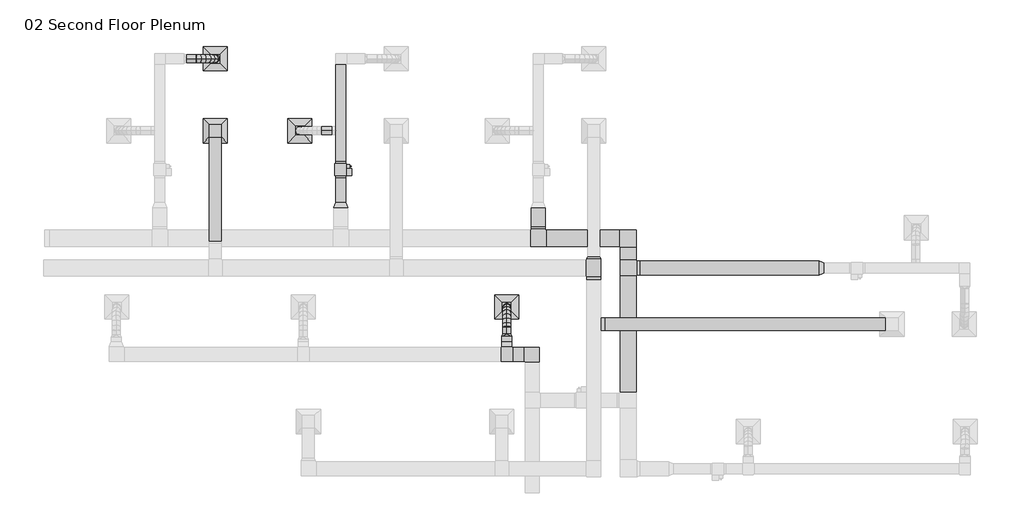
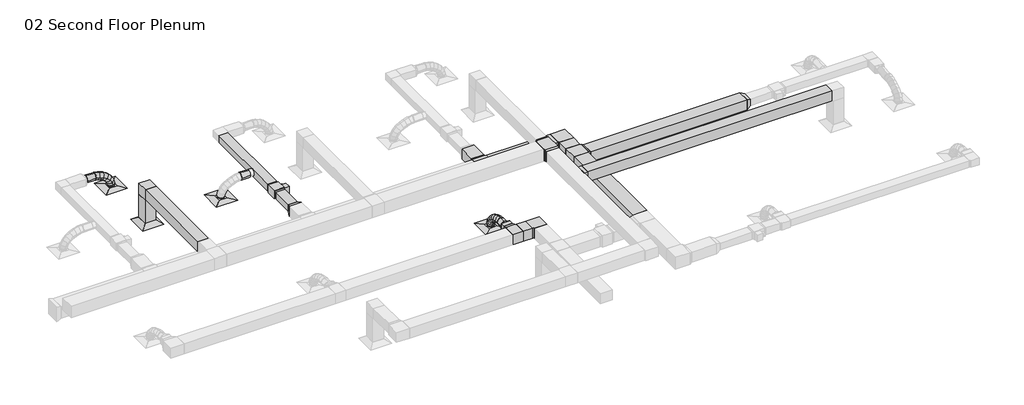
# One storey, part 9 of 12: 17 duct segments, 16 duct fittings, 4 air terminals, 1 proxy.
"""IFC4 building model written with IfcOpenShell, lengths in millimetres."""

from ifc_helpers import new_model, si_unit, point, frame, frame_2d, origin, place, context, project, spatial, polyline, circle_curve, ellipse_curve, trimmed, segment, composite_curve, outline, extrude, transform, mapped, element, save
from ifc_brep_helpers import plane_surface, cylinder_surface, advanced_brep
from components import return_diffuser_d30_returndiffuser_24x24_12x12_connection_ff543d60, supply_diffuser_rectangular_face_round_neck_d30_6390248a, bcn6785_vav_d30_vav1_8c327968, rectangular_elbow_mitered_standard_f5573d14, rectangular_elbow_mitered_standard_452c98c7, rectangular_elbow_mitered_standard_4ff1c4e8, rectangular_takeoff_standard_087f681d, rectangular_tee_standard_6c605370, rectangular_tee_standard_0ce2a782, rectangular_tee_standard_d2fbf457, rectangular_transition_angle_45_degree_183635ce, rectangular_transition_angle_45_degree_4f949d70, rectangular_transition_angle_45_degree_74625674, rectangular_transition_angle_45_degree_97535d2c, rectangular_transition_angle_45_degree_0def93a9, rectangular_transition_angle_45_degree_276d8c96, rectangular_to_round_transition_angle_45_degree_e9430680

model = new_model("IFC4")

# Units and contexts
model_context = context("Model", 3, world=origin())
ifc_project = project(units=[si_unit("LENGTHUNIT", "METRE", prefix="MILLI")], contexts=[model_context])

# Site, building, storey
site = spatial("IfcSite", under=ifc_project)
building = spatial("IfcBuilding", under=site)
storey = spatial("IfcBuildingStorey", under=building, Name="02 Second Floor Plenum", Elevation=3048.0)

# Air terminals
placement = place(None, origin())
return_diffuser_d30_returndiffuser_24x24_12x12_connection_shape = return_diffuser_d30_returndiffuser_24x24_12x12_connection_ff543d60(model_context)
element("IfcAirTerminal", 1, ObjectType="Return Diffuser : D30_ReturnDiffuser_24x24 12x12 Connection", at=placement, inside=storey, context=model_context, shape_type="MappedRepresentation", body=[
    mapped(return_diffuser_d30_returndiffuser_24x24_12x12_connection_shape, transform((681.2457383, 10036.7671675, 3048.0), x_axis=(1.0, 0.0, 0.0), y_axis=(0.0, 1.0, 0.0), z_axis=(0.0, 0.0, 1.0))),
])
supply_diffuser_rectangular_face_round_neck_d30_shape = supply_diffuser_rectangular_face_round_neck_d30_6390248a(model_context)
element("IfcAirTerminal", 2, ObjectType="Supply Diffuser - Rectangular Face Round Neck : D30_SupplyDiffuser_24x24 8 Neck", at=placement, inside=storey, context=model_context, shape_type="MappedRepresentation", body=[
    mapped(supply_diffuser_rectangular_face_round_neck_d30_shape, transform((681.2457383, 11865.5671675, 3048.0), x_axis=(1.0, 0.0, 0.0), y_axis=(0.0, 1.0, 0.0), z_axis=(0.0, 0.0, 1.0))),
])
element("IfcAirTerminal", 3, ObjectType="Supply Diffuser - Rectangular Face Round Neck : D30_SupplyDiffuser_24x24 8 Neck", at=placement, inside=storey, context=model_context, shape_type="MappedRepresentation", body=[
    mapped(supply_diffuser_rectangular_face_round_neck_d30_shape, transform((2814.8457383, 10036.7671675, 3048.0), x_axis=(1.0, 0.0, 0.0), y_axis=(0.0, 1.0, 0.0), z_axis=(0.0, 0.0, 1.0))),
])
element("IfcAirTerminal", 4, ObjectType="Supply Diffuser - Rectangular Face Round Neck : D30_SupplyDiffuser_24x24 8 Neck", at=placement, inside=storey, context=model_context, shape_type="MappedRepresentation", body=[
    mapped(supply_diffuser_rectangular_face_round_neck_d30_shape, transform((8055.87093, 5575.8921675, 3048.0), x_axis=(1.0, 0.0, 0.0), y_axis=(0.0, 1.0, 0.0), z_axis=(0.0, 0.0, 1.0))),
])

# Proxy
bcn6785_vav_d30_vav1_shape = bcn6785_vav_d30_vav1_8c327968(model_context)
element("IfcBuildingElementProxy", 5, Name="BCN6785_VAV : D30_VAV1", ObjectType="BCN6785_VAV : D30_VAV1", at=placement, inside=storey, context=model_context, shape_type="MappedRepresentation", body=[
    mapped(bcn6785_vav_d30_vav1_shape, transform((3851.251634, 8909.6421675, 3384.55), x_axis=(0.0, 1.0, 0.0), y_axis=(-1.0, 0.0, 0.0), z_axis=(0.0, 0.0, 1.0))),
])

# Duct fittings
rectangular_elbow_mitered_standard_shape = rectangular_elbow_mitered_standard_f5573d14(model_context)
element("IfcDuctFitting", 6, ObjectType="Rectangular Elbow - Mitered : Standard", at=placement, inside=storey, context=model_context, shape_type="MappedRepresentation", body=[
    mapped(rectangular_elbow_mitered_standard_shape, transform((11126.2817659, 7316.8809317, 3505.2), x_axis=(0.0, 1.0, 0.0), y_axis=(-1.0, 0.0, 0.0), z_axis=(0.0, 0.0, 1.0))),
])
rectangular_elbow_mitered_standard_2_shape = rectangular_elbow_mitered_standard_452c98c7(model_context)
element("IfcDuctFitting", 7, ObjectType="Rectangular Elbow - Mitered : Standard", at=placement, inside=storey, context=model_context, shape_type="MappedRepresentation", body=[
    mapped(rectangular_elbow_mitered_standard_2_shape, transform((8690.7455608, 4380.2636656, 3505.2), x_axis=(0.0, 1.0, 0.0), y_axis=(-1.0, 0.0, 0.0), z_axis=(0.0, 0.0, 1.0))),
])
rectangular_elbow_mitered_standard_3_shape = rectangular_elbow_mitered_standard_4ff1c4e8(model_context)
element("IfcDuctFitting", 8, ObjectType="Rectangular Elbow - Mitered : Standard", at=placement, inside=storey, context=model_context, shape_type="MappedRepresentation", body=[
    mapped(rectangular_elbow_mitered_standard_3_shape, transform((681.2457383, 10036.7671675, 4038.6), x_axis=(0.0, 0.0, 1.0), y_axis=(0.00026472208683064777, -0.9999999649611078, 0.0), z_axis=(0.9999999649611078, 0.00026472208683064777, 0.0))),
])
rectangular_takeoff_standard_shape = rectangular_takeoff_standard_087f681d(model_context)
element("IfcDuctFitting", 9, ObjectType="Rectangular Takeoff : Standard", at=placement, inside=storey, context=model_context, shape_type="MappedRepresentation", body=[
    mapped(rectangular_takeoff_standard_shape, transform((10430.0832383, 5144.0921675, 4038.6), x_axis=(1.0, 0.0, 0.0), y_axis=(0.0, -1.0, 0.0), z_axis=(0.0, 0.0, -1.0))),
])
rectangular_tee_standard_shape = rectangular_tee_standard_6c605370(model_context)
element("IfcDuctFitting", 10, ObjectType="Rectangular Tee : Standard", at=placement, inside=storey, context=model_context, shape_type="MappedRepresentation", body=[
    mapped(rectangular_tee_standard_shape, transform((8850.289134, 7316.8809317, 3505.2), x_axis=(-1.0, 0.0, 0.0), y_axis=(0.0, -1.0, 0.0), z_axis=(0.0, 0.0, 1.0))),
])
element("IfcDuctFitting", 11, ObjectType="Rectangular Tee : Standard", at=placement, inside=storey, context=model_context, shape_type="MappedRepresentation", body=[
    mapped(rectangular_tee_standard_shape, transform((11126.2817659, 6562.2580171, 3505.2), x_axis=(0.0, 1.0, 0.0), y_axis=(-1.0, 0.0, 0.0), z_axis=(0.0, 0.0, 1.0))),
])
rectangular_tee_standard_2_shape = rectangular_tee_standard_0ce2a782(model_context)
element("IfcDuctFitting", 12, ObjectType="Rectangular Tee : Standard", at=placement, inside=storey, context=model_context, shape_type="MappedRepresentation", body=[
    mapped(rectangular_tee_standard_2_shape, transform((8055.87093, 4380.2636656, 3505.2), x_axis=(-1.0, 0.0, 0.0), y_axis=(0.0, -1.0, 0.0), z_axis=(0.0, 0.0, 1.0))),
])
rectangular_tee_standard_3_shape = rectangular_tee_standard_d2fbf457(model_context)
element("IfcDuctFitting", 13, ObjectType="Rectangular Tee : Standard", at=placement, inside=storey, context=model_context, shape_type="MappedRepresentation", body=[
    mapped(rectangular_tee_standard_3_shape, transform((10252.2832383, 6562.5101985, 4038.6), x_axis=(0.0, -1.0, 0.0), y_axis=(1.0, 0.0, 0.0), z_axis=(0.0, 0.0, 1.0))),
])
rectangular_transition_angle_45_degree_shape = rectangular_transition_angle_45_degree_183635ce(model_context)
element("IfcDuctFitting", 14, ObjectType="Rectangular Transition - Angle : 45 Degree", at=placement, inside=storey, context=model_context, shape_type="MappedRepresentation", body=[
    mapped(rectangular_transition_angle_45_degree_shape, transform((15952.2817659, 6562.2580171, 3505.2), x_axis=(1.0, 0.0, 0.0), y_axis=(0.0, 1.0, 0.0), z_axis=(0.0, 0.0, 1.0))),
])
rectangular_transition_angle_45_degree_2_shape = rectangular_transition_angle_45_degree_4f949d70(model_context)
element("IfcDuctFitting", 15, ObjectType="Rectangular Transition - Angle : 45 Degree", at=placement, inside=storey, context=model_context, shape_type="MappedRepresentation", body=[
    mapped(rectangular_transition_angle_45_degree_2_shape, transform((11354.8817659, 6562.2580171, 3505.2), x_axis=(1.0, 0.0, 0.0), y_axis=(0.0, 1.0, 0.0), z_axis=(0.0, 0.0, 1.0))),
])
element("IfcDuctFitting", 16, ObjectType="Rectangular Transition - Angle : 45 Degree", at=placement, inside=storey, context=model_context, shape_type="MappedRepresentation", body=[
    mapped(rectangular_transition_angle_45_degree_2_shape, transform((10252.2832383, 6333.9101985, 4038.6), x_axis=(0.0, -1.0, 0.0), y_axis=(1.0, 0.0, 0.0), z_axis=(0.0, 0.0, 1.0))),
])
rectangular_transition_angle_45_degree_3_shape = rectangular_transition_angle_45_degree_74625674(model_context)
element("IfcDuctFitting", 17, ObjectType="Rectangular Transition - Angle : 45 Degree", at=placement, inside=storey, context=model_context, shape_type="MappedRepresentation", body=[
    mapped(rectangular_transition_angle_45_degree_3_shape, transform((3851.251634, 8223.8421675, 3505.2), x_axis=(0.0, -1.0, 0.0), y_axis=(1.0, 0.0, 0.0), z_axis=(0.0, 0.0, 1.0))),
])
rectangular_transition_angle_45_degree_4_shape = rectangular_transition_angle_45_degree_97535d2c(model_context)
element("IfcDuctFitting", 18, ObjectType="Rectangular Transition - Angle : 45 Degree", at=placement, inside=storey, context=model_context, shape_type="MappedRepresentation", body=[
    mapped(rectangular_transition_angle_45_degree_4_shape, transform((8850.289134, 7606.8019562, 3505.2), x_axis=(0.0, -1.0, 0.0), y_axis=(1.0, 0.0, 0.0), z_axis=(0.0, 0.0, 1.0))),
])
rectangular_transition_angle_45_degree_5_shape = rectangular_transition_angle_45_degree_0def93a9(model_context)
element("IfcDuctFitting", 19, ObjectType="Rectangular Transition - Angle : 45 Degree", at=placement, inside=storey, context=model_context, shape_type="MappedRepresentation", body=[
    mapped(rectangular_transition_angle_45_degree_5_shape, transform((8055.87093, 4583.4636656, 3505.2), x_axis=(0.0, 1.0, 0.0), y_axis=(-1.0, 0.0, 0.0), z_axis=(0.0, 0.0, 1.0))),
])
rectangular_transition_angle_45_degree_6_shape = rectangular_transition_angle_45_degree_276d8c96(model_context)
element("IfcDuctFitting", 20, ObjectType="Rectangular Transition - Angle : 45 Degree", at=placement, inside=storey, context=model_context, shape_type="MappedRepresentation", body=[
    mapped(rectangular_transition_angle_45_degree_6_shape, transform((10252.2832383, 6791.1101985, 4038.6), x_axis=(0.0, 1.0, 0.0), y_axis=(-1.0, 0.0, 0.0), z_axis=(0.0, 0.0, 1.0))),
])
rectangular_to_round_transition_angle_45_degree_shape = rectangular_to_round_transition_angle_45_degree_e9430680(model_context)
element("IfcDuctFitting", 21, ObjectType="Rectangular to Round Transition - Angle : 45 Degree", at=placement, inside=storey, context=model_context, shape_type="MappedRepresentation", body=[
    mapped(rectangular_to_round_transition_angle_45_degree_shape, transform((8055.87093, 4837.4636656, 3505.2), x_axis=(0.0, 1.0, 0.0), y_axis=(-1.0, 0.0, 0.0), z_axis=(0.0, 0.0, 1.0))),
])

# Duct segments
element("IfcDuctSegment", 22, ObjectType="Flex - Round", at=placement, inside=storey, context=model_context, shape_type="AdvancedBrep", body=[
    advanced_brep(
    [(193.651634, 11967.1671675, 3505.2), (193.651634, 11865.5671675, 3403.6), (193.651634, 11763.9671675, 3505.2), (193.651634, 11865.5671675, 3606.8), (207.6598765, 11967.1671675, 3505.2), (199.6002398, 11865.5671675, 3403.6), (207.6598765, 11763.9671675, 3505.2), (215.7195132, 11865.5671675, 3606.8), (681.2457383, 11967.1671675, 3101.975), (782.8457383, 11865.5671675, 3101.975), (681.2457383, 11763.9671675, 3101.975), (579.6457383, 11865.5671675, 3101.975), (303.001546, 11967.1671675, 3489.9778475), (276.5341556, 11865.5671675, 3391.3168105), (303.001546, 11763.9671675, 3489.9778475), (329.4689365, 11865.5671675, 3588.6388846), (413.801663, 11967.1671675, 3447.5285565), (368.0682817, 11865.5671675, 3356.2486277), (413.801663, 11763.9671675, 3447.5285565), (459.5350443, 11865.5671675, 3538.8084854), (516.5390628, 11967.1671675, 3382.6778766), (453.4257256, 11865.5671675, 3302.3686553), (516.5390628, 11763.9671675, 3382.6778766), (579.6524001, 11865.5671675, 3462.987098), (601.7008234, 11967.1671675, 3300.2515575), (521.7242587, 11865.5671675, 3236.2639076), (601.7008234, 11763.9671675, 3300.2515575), (681.677388, 11865.5671675, 3364.2392074), (659.7740226, 11967.1671675, 3205.0753487), (565.2379514, 11865.5671675, 3164.9492848), (659.7740226, 11763.9671675, 3205.0753487), (754.3100938, 11865.5671675, 3245.2014127), (681.2457383, 11967.1671675, 3122.6897958), (579.6457383, 11865.5671675, 3109.6675594), (681.2457383, 11763.9671675, 3122.6897958), (782.8457383, 11865.5671675, 3135.7120321)],
    [
        (0, 1, circle_curve(frame((193.651634, 11865.5671675, 3505.2), z_axis=(-1.0, 0.0, 0.0), x_axis=(0.0, 1.0, 0.0)), 101.6)),
        (1, 2, circle_curve(frame((193.651634, 11865.5671675, 3505.2), z_axis=(-1.0, 0.0, 0.0), x_axis=(0.0, 1.0, 0.0)), 101.6)),
        (2, 3, circle_curve(frame((193.651634, 11865.5671675, 3505.2), z_axis=(-1.0, 0.0, 0.0), x_axis=(0.0, 1.0, 0.0)), 101.6)),
        (3, 0, circle_curve(frame((193.651634, 11865.5671675, 3505.2), z_axis=(-1.0, 0.0, 0.0), x_axis=(0.0, 1.0, 0.0)), 101.6)),
        (0, 4),
        (4, 5, ellipse_curve(frame((207.6598765, 11865.5671675, 3505.2), z_axis=(-0.9968683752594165, 0.0, 0.07907871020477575), x_axis=(-0.07907871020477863, 0.0, -0.9968683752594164)), 101.9191726, 101.6)),
        (5, 1),
        (5, 6, ellipse_curve(frame((207.6598765, 11865.5671675, 3505.2), z_axis=(-0.9968683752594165, 0.0, 0.07907871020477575), x_axis=(-0.07907871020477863, 0.0, -0.9968683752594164)), 101.9191726, 101.6)),
        (6, 2),
        (6, 7, ellipse_curve(frame((207.6598765, 11865.5671675, 3505.2), z_axis=(-0.9968683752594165, 0.0, 0.07907871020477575), x_axis=(-0.07907871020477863, 0.0, -0.9968683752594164)), 101.9191726, 101.6)),
        (7, 3),
        (7, 4, ellipse_curve(frame((207.6598765, 11865.5671675, 3505.2), z_axis=(-0.9968683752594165, 0.0, 0.07907871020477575), x_axis=(-0.07907871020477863, 0.0, -0.9968683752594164)), 101.9191726, 101.6)),
        (8, 9, circle_curve(frame((681.2457383, 11865.5671675, 3101.975), z_axis=(0.0, 0.0, -1.0), x_axis=(0.0, 1.0, 0.0)), 101.6)),
        (9, 10, circle_curve(frame((681.2457383, 11865.5671675, 3101.975), z_axis=(0.0, 0.0, -1.0), x_axis=(0.0, 1.0, 0.0)), 101.6)),
        (10, 11, circle_curve(frame((681.2457383, 11865.5671675, 3101.975), z_axis=(0.0, 0.0, -1.0), x_axis=(0.0, 1.0, 0.0)), 101.6)),
        (11, 8, circle_curve(frame((681.2457383, 11865.5671675, 3101.975), z_axis=(0.0, 0.0, -1.0), x_axis=(0.0, 1.0, 0.0)), 101.6)),
        (4, 12),
        (12, 13, ellipse_curve(frame((303.001546, 11865.5671675, 3489.9778475), z_axis=(-0.965849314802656, 0.0, 0.2591044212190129), x_axis=(-0.25910442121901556, 0.0, -0.9658493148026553)), 102.1495129, 101.6)),
        (13, 5),
        (13, 14, ellipse_curve(frame((303.001546, 11865.5671675, 3489.9778475), z_axis=(-0.965849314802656, 0.0, 0.2591044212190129), x_axis=(-0.25910442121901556, 0.0, -0.9658493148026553)), 102.1495129, 101.6)),
        (14, 6),
        (14, 15, ellipse_curve(frame((303.001546, 11865.5671675, 3489.9778475), z_axis=(-0.965849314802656, 0.0, 0.2591044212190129), x_axis=(-0.25910442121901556, 0.0, -0.9658493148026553)), 102.1495129, 101.6)),
        (15, 7),
        (15, 12, ellipse_curve(frame((303.001546, 11865.5671675, 3489.9778475), z_axis=(-0.965849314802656, 0.0, 0.2591044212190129), x_axis=(-0.25910442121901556, 0.0, -0.9658493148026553)), 102.1495129, 101.6)),
        (12, 16),
        (16, 17, ellipse_curve(frame((413.801663, 11865.5671675, 3447.5285565), z_axis=(-0.8940608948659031, 0.0, 0.4479454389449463), x_axis=(-0.4479454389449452, 0.0, -0.8940608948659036)), 102.0958744, 101.6)),
        (17, 13),
        (17, 18, ellipse_curve(frame((413.801663, 11865.5671675, 3447.5285565), z_axis=(-0.8940608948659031, 0.0, 0.4479454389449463), x_axis=(-0.4479454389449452, 0.0, -0.8940608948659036)), 102.0958744, 101.6)),
        (18, 14),
        (18, 19, ellipse_curve(frame((413.801663, 11865.5671675, 3447.5285565), z_axis=(-0.8940608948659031, 0.0, 0.4479454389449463), x_axis=(-0.4479454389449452, 0.0, -0.8940608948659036)), 102.0958744, 101.6)),
        (19, 15),
        (19, 16, ellipse_curve(frame((413.801663, 11865.5671675, 3447.5285565), z_axis=(-0.8940608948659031, 0.0, 0.4479454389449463), x_axis=(-0.4479454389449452, 0.0, -0.8940608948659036)), 102.0958744, 101.6)),
        (16, 20),
        (20, 21, ellipse_curve(frame((516.5390628, 11865.5671675, 3382.6778766), z_axis=(-0.7862553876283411, 0.0, 0.6179016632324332), x_axis=(-0.6179016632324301, 0.0, -0.7862553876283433)), 102.141394, 101.6)),
        (21, 17),
        (21, 22, ellipse_curve(frame((516.5390628, 11865.5671675, 3382.6778766), z_axis=(-0.7862553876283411, 0.0, 0.6179016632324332), x_axis=(-0.6179016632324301, 0.0, -0.7862553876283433)), 102.141394, 101.6)),
        (22, 18),
        (22, 23, ellipse_curve(frame((516.5390628, 11865.5671675, 3382.6778766), z_axis=(-0.7862553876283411, 0.0, 0.6179016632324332), x_axis=(-0.6179016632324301, 0.0, -0.7862553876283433)), 102.141394, 101.6)),
        (23, 19),
        (23, 20, ellipse_curve(frame((516.5390628, 11865.5671675, 3382.6778766), z_axis=(-0.7862553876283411, 0.0, 0.6179016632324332), x_axis=(-0.6179016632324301, 0.0, -0.7862553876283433)), 102.141394, 101.6)),
        (20, 24),
        (24, 25, ellipse_curve(frame((601.7008234, 11865.5671675, 3300.2515575), z_axis=(-0.6247331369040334, 0.0, 0.780838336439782), x_axis=(-0.7808383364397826, 0.0, -0.6247331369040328)), 102.4239729, 101.6)),
        (25, 21),
        (25, 26, ellipse_curve(frame((601.7008234, 11865.5671675, 3300.2515575), z_axis=(-0.6247331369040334, 0.0, 0.780838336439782), x_axis=(-0.7808383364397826, 0.0, -0.6247331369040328)), 102.4239729, 101.6)),
        (26, 22),
        (26, 27, ellipse_curve(frame((601.7008234, 11865.5671675, 3300.2515575), z_axis=(-0.6247331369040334, 0.0, 0.780838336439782), x_axis=(-0.7808383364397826, 0.0, -0.6247331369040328)), 102.4239729, 101.6)),
        (27, 23),
        (27, 24, ellipse_curve(frame((601.7008234, 11865.5671675, 3300.2515575), z_axis=(-0.6247331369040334, 0.0, 0.780838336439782), x_axis=(-0.7808383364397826, 0.0, -0.6247331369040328)), 102.4239729, 101.6)),
        (24, 28),
        (28, 29, ellipse_curve(frame((659.7740226, 11865.5671675, 3205.0753487), z_axis=(-0.3907136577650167, 0.0, 0.9205122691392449), x_axis=(-0.9205122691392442, 0.0, -0.39071365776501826)), 102.6994146, 101.6)),
        (29, 25),
        (29, 30, ellipse_curve(frame((659.7740226, 11865.5671675, 3205.0753487), z_axis=(-0.3907136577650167, 0.0, 0.9205122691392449), x_axis=(-0.9205122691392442, 0.0, -0.39071365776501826)), 102.6994146, 101.6)),
        (30, 26),
        (30, 31, ellipse_curve(frame((659.7740226, 11865.5671675, 3205.0753487), z_axis=(-0.3907136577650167, 0.0, 0.9205122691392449), x_axis=(-0.9205122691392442, 0.0, -0.39071365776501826)), 102.6994146, 101.6)),
        (31, 27),
        (31, 28, ellipse_curve(frame((659.7740226, 11865.5671675, 3205.0753487), z_axis=(-0.3907136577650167, 0.0, 0.9205122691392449), x_axis=(-0.9205122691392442, 0.0, -0.39071365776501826)), 102.6994146, 101.6)),
        (28, 32),
        (32, 33, ellipse_curve(frame((681.2457383, 11865.5671675, 3122.6897958), z_axis=(-0.12713161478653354, 0.0, 0.9918858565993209), x_axis=(-0.9918858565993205, 0.0, -0.12713161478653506)), 102.431141, 101.6)),
        (33, 29),
        (33, 34, ellipse_curve(frame((681.2457383, 11865.5671675, 3122.6897958), z_axis=(-0.12713161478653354, 0.0, 0.9918858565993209), x_axis=(-0.9918858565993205, 0.0, -0.12713161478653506)), 102.431141, 101.6)),
        (34, 30),
        (34, 35, ellipse_curve(frame((681.2457383, 11865.5671675, 3122.6897958), z_axis=(-0.12713161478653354, 0.0, 0.9918858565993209), x_axis=(-0.9918858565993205, 0.0, -0.12713161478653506)), 102.431141, 101.6)),
        (35, 31),
        (35, 32, ellipse_curve(frame((681.2457383, 11865.5671675, 3122.6897958), z_axis=(-0.12713161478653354, 0.0, 0.9918858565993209), x_axis=(-0.9918858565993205, 0.0, -0.12713161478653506)), 102.431141, 101.6)),
        (32, 8),
        (11, 33),
        (10, 34),
        (9, 35),
    ],
    [
        plane_surface(frame((193.651634, 11865.5671675, 3403.6), z_axis=(-1.0, 0.0, 0.0), x_axis=(0.0, 1.0, 0.0))),
        cylinder_surface(frame((193.651634, 11865.5671675, 3505.2), z_axis=(-1.0, 0.0, 0.0), x_axis=(0.0, 1.0, 0.0)), 101.6),
        plane_surface(frame((681.2457383, 11763.9671675, 3101.975), z_axis=(0.0, 0.0, -1.0), x_axis=(-1.0, 0.0, 0.0))),
        cylinder_surface(frame((207.6598765, 11865.5671675, 3505.2), z_axis=(-0.9874931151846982, 0.0, 0.1576621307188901), x_axis=(0.0, 1.0, 0.0)), 101.6),
        cylinder_surface(frame((303.001546, 11865.5671675, 3489.9778475), z_axis=(-0.9338139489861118, 0.0, 0.35775900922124), x_axis=(0.0, 1.0, 0.0)), 101.6),
        cylinder_surface(frame((413.801663, 11865.5671675, 3447.5285565), z_axis=(-0.8456230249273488, 0.0, 0.5337805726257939), x_axis=(0.0, 1.0, 0.0)), 101.6),
        cylinder_surface(frame((516.5390628, 11865.5671675, 3382.6778766), z_axis=(-0.7185527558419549, 0.0, 0.6954724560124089), x_axis=(0.0, 1.0, 0.0)), 101.6),
        cylinder_surface(frame((601.7008234, 11865.5671675, 3300.2515575), z_axis=(-0.5208619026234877, 0.0, 0.8536409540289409), x_axis=(0.0, 1.0, 0.0)), 101.6),
        cylinder_surface(frame((659.7740226, 11865.5671675, 3205.0753487), z_axis=(-0.2522001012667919, 0.0, 0.9676751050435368), x_axis=(0.0, 1.0, 0.0)), 101.6),
        cylinder_surface(frame((681.2457383, 11865.5671675, 3122.6897958), z_axis=(0.0, 0.0, 1.0), x_axis=(0.0, 1.0, 0.0)), 101.6),
    ],
    [
        (0, [[1, 2, 3, 4]]),
        (1, [[-1, 5, 6, 7]]),
        (1, [[-2, -7, 8, 9]]),
        (1, [[-3, -9, 10, 11]]),
        (1, [[-4, -11, 12, -5]]),
        (2, [[13, 14, 15, 16]]),
        (3, [[-6, 17, 18, 19]]),
        (3, [[-8, -19, 20, 21]]),
        (3, [[-10, -21, 22, 23]]),
        (3, [[-12, -23, 24, -17]]),
        (4, [[-18, 25, 26, 27]]),
        (4, [[-20, -27, 28, 29]]),
        (4, [[-22, -29, 30, 31]]),
        (4, [[-24, -31, 32, -25]]),
        (5, [[-26, 33, 34, 35]]),
        (5, [[-28, -35, 36, 37]]),
        (5, [[-30, -37, 38, 39]]),
        (5, [[-32, -39, 40, -33]]),
        (6, [[-34, 41, 42, 43]]),
        (6, [[-36, -43, 44, 45]]),
        (6, [[-38, -45, 46, 47]]),
        (6, [[-40, -47, 48, -41]]),
        (7, [[-42, 49, 50, 51]]),
        (7, [[-44, -51, 52, 53]]),
        (7, [[-46, -53, 54, 55]]),
        (7, [[-48, -55, 56, -49]]),
        (8, [[-50, 57, 58, 59]]),
        (8, [[-52, -59, 60, 61]]),
        (8, [[-54, -61, 62, 63]]),
        (8, [[-56, -63, 64, -57]]),
        (9, [[-58, 65, -16, 66]]),
        (9, [[-60, -66, -15, 67]]),
        (9, [[-62, -67, -14, 68]]),
        (9, [[-64, -68, -13, -65]]),
    ],
),
])
element("IfcDuctSegment", 23, ObjectType="Flex - Round", at=placement, inside=storey, context=model_context, shape_type="AdvancedBrep", body=[
    advanced_brep(
    [(7954.27093, 5066.0636656, 3505.2), (8055.87093, 5066.0636656, 3403.6), (8157.47093, 5066.0636656, 3505.2), (8055.87093, 5066.0636656, 3606.8), (7954.27093, 5077.5391986, 3505.2), (8055.87093, 5071.0118042, 3403.6), (8157.47093, 5077.5391986, 3505.2), (8055.87093, 5084.0665931, 3606.8), (7954.27093, 5575.8921675, 3101.975), (8055.87093, 5677.4921675, 3101.975), (8157.47093, 5575.8921675, 3101.975), (8055.87093, 5474.2921675, 3101.975), (7954.27093, 5162.5277204, 3494.2343923), (8055.87093, 5140.6990656, 3394.6086308), (8157.47093, 5162.5277204, 3494.2343923), (8055.87093, 5184.3563753, 3593.8601537), (7954.27093, 5261.8914625, 3463.1619198), (8055.87093, 5223.5446801, 3368.7016146), (8157.47093, 5261.8914625, 3463.1619198), (8055.87093, 5300.2382449, 3557.622225), (7954.27093, 5357.6887972, 3414.7191087), (8055.87093, 5304.3000048, 3327.8652494), (8157.47093, 5357.6887972, 3414.7191087), (8055.87093, 5411.0775895, 3501.5729679), (7954.27093, 5443.4536296, 3351.6424851), (8055.87093, 5375.4251663, 3275.5555217), (8157.47093, 5443.4536296, 3351.6424851), (8055.87093, 5511.482093, 3427.7294484), (7954.27093, 5512.7198653, 3276.668575), (8055.87093, 5429.6836678, 3216.8260127), (8157.47093, 5512.7198653, 3276.668575), (8055.87093, 5595.7560628, 3336.5111373), (7954.27093, 5559.0214095, 3192.5339046), (8055.87093, 5463.2873106, 3155.7647358), (8157.47093, 5559.0214095, 3192.5339046), (8055.87093, 5654.7555084, 3229.3030734), (7954.27093, 5575.8921675, 3120.5825254), (8055.87093, 5474.2921675, 3108.830589), (8157.47093, 5575.8921675, 3120.5825254), (8055.87093, 5677.4921675, 3132.3344618)],
    [
        (0, 1, circle_curve(frame((8055.87093, 5066.0636656, 3505.2), z_axis=(0.0, -1.0, 0.0), x_axis=(-1.0, 0.0, 0.0)), 101.6)),
        (1, 2, circle_curve(frame((8055.87093, 5066.0636656, 3505.2), z_axis=(0.0, -1.0, 0.0), x_axis=(-1.0, 0.0, 0.0)), 101.6)),
        (2, 3, circle_curve(frame((8055.87093, 5066.0636656, 3505.2), z_axis=(0.0, -1.0, 0.0), x_axis=(-1.0, 0.0, 0.0)), 101.6)),
        (3, 0, circle_curve(frame((8055.87093, 5066.0636656, 3505.2), z_axis=(0.0, -1.0, 0.0), x_axis=(-1.0, 0.0, 0.0)), 101.6)),
        (0, 4),
        (4, 5, ellipse_curve(frame((8055.87093, 5077.5391986, 3505.2), z_axis=(0.0, -0.9979425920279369, 0.06411382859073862), x_axis=(0.0, -0.06411382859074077, -0.9979425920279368)), 101.8094636, 101.6)),
        (5, 1),
        (5, 6, ellipse_curve(frame((8055.87093, 5077.5391986, 3505.2), z_axis=(0.0, -0.9979425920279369, 0.06411382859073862), x_axis=(0.0, -0.06411382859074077, -0.9979425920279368)), 101.8094636, 101.6)),
        (6, 2),
        (6, 7, ellipse_curve(frame((8055.87093, 5077.5391986, 3505.2), z_axis=(0.0, -0.9979425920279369, 0.06411382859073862), x_axis=(0.0, -0.06411382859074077, -0.9979425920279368)), 101.8094636, 101.6)),
        (7, 3),
        (7, 4, ellipse_curve(frame((8055.87093, 5077.5391986, 3505.2), z_axis=(0.0, -0.9979425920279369, 0.06411382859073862), x_axis=(0.0, -0.06411382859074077, -0.9979425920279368)), 101.8094636, 101.6)),
        (8, 9, circle_curve(frame((8055.87093, 5575.8921675, 3101.975), z_axis=(0.0, 0.0, -1.0), x_axis=(-1.0, 0.0, 0.0)), 101.6)),
        (9, 10, circle_curve(frame((8055.87093, 5575.8921675, 3101.975), z_axis=(0.0, 0.0, -1.0), x_axis=(-1.0, 0.0, 0.0)), 101.6)),
        (10, 11, circle_curve(frame((8055.87093, 5575.8921675, 3101.975), z_axis=(0.0, 0.0, -1.0), x_axis=(-1.0, 0.0, 0.0)), 101.6)),
        (11, 8, circle_curve(frame((8055.87093, 5575.8921675, 3101.975), z_axis=(0.0, 0.0, -1.0), x_axis=(-1.0, 0.0, 0.0)), 101.6)),
        (4, 12),
        (12, 13, ellipse_curve(frame((8055.87093, 5162.5277204, 3494.2343923), z_axis=(0.0, -0.9768272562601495, 0.21402923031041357), x_axis=(0.0, -0.21402923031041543, -0.9768272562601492)), 101.9891294, 101.6)),
        (13, 5),
        (13, 14, ellipse_curve(frame((8055.87093, 5162.5277204, 3494.2343923), z_axis=(0.0, -0.9768272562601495, 0.21402923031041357), x_axis=(0.0, -0.21402923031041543, -0.9768272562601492)), 101.9891294, 101.6)),
        (14, 6),
        (14, 15, ellipse_curve(frame((8055.87093, 5162.5277204, 3494.2343923), z_axis=(0.0, -0.9768272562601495, 0.21402923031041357), x_axis=(0.0, -0.21402923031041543, -0.9768272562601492)), 101.9891294, 101.6)),
        (15, 7),
        (15, 12, ellipse_curve(frame((8055.87093, 5162.5277204, 3494.2343923), z_axis=(0.0, -0.9768272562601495, 0.21402923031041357), x_axis=(0.0, -0.21402923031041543, -0.9768272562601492)), 101.9891294, 101.6)),
        (12, 16),
        (16, 17, ellipse_curve(frame((8055.87093, 5261.8914625, 3463.1619198), z_axis=(0.0, -0.926561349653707, 0.3761436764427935), x_axis=(0.0, -0.376143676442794, -0.9265613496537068)), 101.9471675, 101.6)),
        (17, 13),
        (17, 18, ellipse_curve(frame((8055.87093, 5261.8914625, 3463.1619198), z_axis=(0.0, -0.926561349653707, 0.3761436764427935), x_axis=(0.0, -0.376143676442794, -0.9265613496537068)), 101.9471675, 101.6)),
        (18, 14),
        (18, 19, ellipse_curve(frame((8055.87093, 5261.8914625, 3463.1619198), z_axis=(0.0, -0.926561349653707, 0.3761436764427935), x_axis=(0.0, -0.376143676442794, -0.9265613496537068)), 101.9471675, 101.6)),
        (19, 15),
        (19, 16, ellipse_curve(frame((8055.87093, 5261.8914625, 3463.1619198), z_axis=(0.0, -0.926561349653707, 0.3761436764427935), x_axis=(0.0, -0.376143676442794, -0.9265613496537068)), 101.9471675, 101.6)),
        (16, 20),
        (20, 21, ellipse_curve(frame((8055.87093, 5357.6887972, 3414.7191087), z_axis=(0.0, -0.8519197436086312, 0.5236723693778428), x_axis=(0.0, -0.5236723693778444, -0.8519197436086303)), 101.9507529, 101.6)),
        (21, 17),
        (21, 22, ellipse_curve(frame((8055.87093, 5357.6887972, 3414.7191087), z_axis=(0.0, -0.8519197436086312, 0.5236723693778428), x_axis=(0.0, -0.5236723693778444, -0.8519197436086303)), 101.9507529, 101.6)),
        (22, 18),
        (22, 23, ellipse_curve(frame((8055.87093, 5357.6887972, 3414.7191087), z_axis=(0.0, -0.8519197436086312, 0.5236723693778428), x_axis=(0.0, -0.5236723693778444, -0.8519197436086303)), 101.9507529, 101.6)),
        (23, 19),
        (23, 20, ellipse_curve(frame((8055.87093, 5357.6887972, 3414.7191087), z_axis=(0.0, -0.8519197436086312, 0.5236723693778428), x_axis=(0.0, -0.5236723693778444, -0.8519197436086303)), 101.9507529, 101.6)),
        (20, 24),
        (24, 25, ellipse_curve(frame((8055.87093, 5443.4536296, 3351.6424851), z_axis=(0.0, -0.7454815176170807, 0.6665262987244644), x_axis=(0.0, -0.6665262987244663, -0.745481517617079)), 102.0641848, 101.6)),
        (25, 21),
        (25, 26, ellipse_curve(frame((8055.87093, 5443.4536296, 3351.6424851), z_axis=(0.0, -0.7454815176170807, 0.6665262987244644), x_axis=(0.0, -0.6665262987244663, -0.745481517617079)), 102.0641848, 101.6)),
        (26, 22),
        (26, 27, ellipse_curve(frame((8055.87093, 5443.4536296, 3351.6424851), z_axis=(0.0, -0.7454815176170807, 0.6665262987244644), x_axis=(0.0, -0.6665262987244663, -0.745481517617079)), 102.0641848, 101.6)),
        (27, 23),
        (27, 24, ellipse_curve(frame((8055.87093, 5443.4536296, 3351.6424851), z_axis=(0.0, -0.7454815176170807, 0.6665262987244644), x_axis=(0.0, -0.6665262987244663, -0.745481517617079)), 102.0641848, 101.6)),
        (24, 28),
        (28, 29, ellipse_curve(frame((8055.87093, 5512.7198653, 3276.668575), z_axis=(0.0, -0.5846682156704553, 0.8112725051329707), x_axis=(0.0, -0.8112725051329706, -0.5846682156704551)), 102.3530281, 101.6)),
        (29, 25),
        (29, 30, ellipse_curve(frame((8055.87093, 5512.7198653, 3276.668575), z_axis=(0.0, -0.5846682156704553, 0.8112725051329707), x_axis=(0.0, -0.8112725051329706, -0.5846682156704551)), 102.3530281, 101.6)),
        (30, 26),
        (30, 31, ellipse_curve(frame((8055.87093, 5512.7198653, 3276.668575), z_axis=(0.0, -0.5846682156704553, 0.8112725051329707), x_axis=(0.0, -0.8112725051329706, -0.5846682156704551)), 102.3530281, 101.6)),
        (31, 27),
        (31, 28, ellipse_curve(frame((8055.87093, 5512.7198653, 3276.668575), z_axis=(0.0, -0.5846682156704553, 0.8112725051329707), x_axis=(0.0, -0.8112725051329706, -0.5846682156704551)), 102.3530281, 101.6)),
        (28, 32),
        (32, 33, ellipse_curve(frame((8055.87093, 5559.0214095, 3192.5339046), z_axis=(0.0, -0.35854039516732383, 0.933514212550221), x_axis=(0.0, -0.933514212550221, -0.35854039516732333)), 102.5523743, 101.6)),
        (33, 29),
        (33, 34, ellipse_curve(frame((8055.87093, 5559.0214095, 3192.5339046), z_axis=(0.0, -0.35854039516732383, 0.933514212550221), x_axis=(0.0, -0.933514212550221, -0.35854039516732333)), 102.5523743, 101.6)),
        (34, 30),
        (34, 35, ellipse_curve(frame((8055.87093, 5559.0214095, 3192.5339046), z_axis=(0.0, -0.35854039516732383, 0.933514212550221), x_axis=(0.0, -0.933514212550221, -0.35854039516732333)), 102.5523743, 101.6)),
        (35, 31),
        (35, 32, ellipse_curve(frame((8055.87093, 5559.0214095, 3192.5339046), z_axis=(0.0, -0.35854039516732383, 0.933514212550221), x_axis=(0.0, -0.933514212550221, -0.35854039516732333)), 102.5523743, 101.6)),
        (32, 36),
        (36, 37, ellipse_curve(frame((8055.87093, 5575.8921675, 3120.5825254), z_axis=(0.0, -0.11490256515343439, 0.99337676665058), x_axis=(0.0, -0.99337676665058, -0.1149025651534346)), 102.2774071, 101.6)),
        (37, 33),
        (37, 38, ellipse_curve(frame((8055.87093, 5575.8921675, 3120.5825254), z_axis=(0.0, -0.11490256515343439, 0.99337676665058), x_axis=(0.0, -0.99337676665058, -0.1149025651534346)), 102.2774071, 101.6)),
        (38, 34),
        (38, 39, ellipse_curve(frame((8055.87093, 5575.8921675, 3120.5825254), z_axis=(0.0, -0.11490256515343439, 0.99337676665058), x_axis=(0.0, -0.99337676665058, -0.1149025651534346)), 102.2774071, 101.6)),
        (39, 35),
        (39, 36, ellipse_curve(frame((8055.87093, 5575.8921675, 3120.5825254), z_axis=(0.0, -0.11490256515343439, 0.99337676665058), x_axis=(0.0, -0.99337676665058, -0.1149025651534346)), 102.2774071, 101.6)),
        (36, 8),
        (11, 37),
        (10, 38),
        (9, 39),
    ],
    [
        plane_surface(frame((7954.27093, 5066.0636656, 3505.2), z_axis=(0.0, -1.0, 0.0), x_axis=(0.0, 0.0, 1.0))),
        cylinder_surface(frame((8055.87093, 5066.0636656, 3505.2), z_axis=(0.0, -1.0, 0.0), x_axis=(-1.0, 0.0, 0.0)), 101.6),
        plane_surface(frame((8055.87093, 5474.2921675, 3101.975), z_axis=(0.0, 0.0, -1.0), x_axis=(-1.0, 0.0, 0.0))),
        cylinder_surface(frame((8055.87093, 5077.5391986, 3505.2), z_axis=(0.0, -0.9917788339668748, 0.1279638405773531), x_axis=(-1.0, 0.0, 0.0)), 101.6),
        cylinder_surface(frame((8055.87093, 5162.5277204, 3494.2343923), z_axis=(0.0, -0.9544217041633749, 0.29846140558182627), x_axis=(-1.0, 0.0, 0.0)), 101.6),
        cylinder_surface(frame((8055.87093, 5261.8914625, 3463.1619198), z_axis=(0.0, -0.8923904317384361, 0.4512641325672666), x_axis=(-1.0, 0.0, 0.0)), 101.6),
        cylinder_surface(frame((8055.87093, 5357.6887972, 3414.7191087), z_axis=(0.0, -0.8055871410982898, 0.5924773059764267), x_axis=(-1.0, 0.0, 0.0)), 101.6),
        cylinder_surface(frame((8055.87093, 5443.4536296, 3351.6424851), z_axis=(0.0, -0.678595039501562, 0.734512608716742), x_axis=(-1.0, 0.0, 0.0)), 101.6),
        cylinder_surface(frame((8055.87093, 5512.7198653, 3276.668575), z_axis=(0.0, -0.48213839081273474, 0.8760950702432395), x_axis=(-1.0, 0.0, 0.0)), 101.6),
        cylinder_surface(frame((8055.87093, 5559.0214095, 3192.5339046), z_axis=(0.0, -0.22828307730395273, 0.9735948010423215), x_axis=(-1.0, 0.0, 0.0)), 101.6),
        cylinder_surface(frame((8055.87093, 5575.8921675, 3120.5825254), z_axis=(0.0, 0.0, 1.0), x_axis=(-1.0, 0.0, 0.0)), 101.6),
    ],
    [
        (0, [[1, 2, 3, 4]]),
        (1, [[-1, 5, 6, 7]]),
        (1, [[-2, -7, 8, 9]]),
        (1, [[-3, -9, 10, 11]]),
        (1, [[-4, -11, 12, -5]]),
        (2, [[13, 14, 15, 16]]),
        (3, [[-6, 17, 18, 19]]),
        (3, [[-8, -19, 20, 21]]),
        (3, [[-10, -21, 22, 23]]),
        (3, [[-12, -23, 24, -17]]),
        (4, [[-18, 25, 26, 27]]),
        (4, [[-20, -27, 28, 29]]),
        (4, [[-22, -29, 30, 31]]),
        (4, [[-24, -31, 32, -25]]),
        (5, [[-26, 33, 34, 35]]),
        (5, [[-28, -35, 36, 37]]),
        (5, [[-30, -37, 38, 39]]),
        (5, [[-32, -39, 40, -33]]),
        (6, [[-34, 41, 42, 43]]),
        (6, [[-36, -43, 44, 45]]),
        (6, [[-38, -45, 46, 47]]),
        (6, [[-40, -47, 48, -41]]),
        (7, [[-42, 49, 50, 51]]),
        (7, [[-44, -51, 52, 53]]),
        (7, [[-46, -53, 54, 55]]),
        (7, [[-48, -55, 56, -49]]),
        (8, [[-50, 57, 58, 59]]),
        (8, [[-52, -59, 60, 61]]),
        (8, [[-54, -61, 62, 63]]),
        (8, [[-56, -63, 64, -57]]),
        (9, [[-58, 65, 66, 67]]),
        (9, [[-60, -67, 68, 69]]),
        (9, [[-62, -69, 70, 71]]),
        (9, [[-64, -71, 72, -65]]),
        (10, [[-66, 73, -16, 74]]),
        (10, [[-68, -74, -15, 75]]),
        (10, [[-70, -75, -14, 76]]),
        (10, [[-72, -76, -13, -73]]),
    ],
),
])
element("IfcDuctSegment", 24, ObjectType="Mitered Elbows / Taps", at=placement, inside=storey, context=model_context, shape_type="SweptSolid", body=[
    extrude(outline(polyline([(10531.6832383, 4991.6921675), (10531.6832383, 5296.4921675), (17613.5207383, 5296.4921675), (17613.5207383, 4991.6921675), (10531.6832383, 4991.6921675)])), frame((0.0, 0.0, 3886.2), z_axis=(0.0, 0.0, 1.0), x_axis=(1.0, 0.0, 0.0)), (0.0, 0.0, 1.0), 304.8),
])
element("IfcDuctSegment", 25, ObjectType="Mitered Elbows / Tees", at=placement, inside=storey, context=model_context, shape_type="SweptSolid", body=[
    extrude(outline(polyline([(9053.489134, 7113.6809317), (9053.489134, 7520.0809317), (10897.6817659, 7520.0809317), (10897.6817659, 7113.6809317), (9053.489134, 7113.6809317)])), frame((0.0, 0.0, 3327.4), z_axis=(0.0, 0.0, 1.0), x_axis=(1.0, 0.0, 0.0)), (0.0, 0.0, 1.0), 355.6),
])
element("IfcDuctSegment", 26, ObjectType="Mitered Elbows / Tees", at=placement, inside=storey, context=model_context, shape_type="SweptSolid", body=[
    extrude(outline(polyline([(3724.251634, 11713.1671675), (3978.251634, 11713.1671675), (3978.251634, 9252.5421675), (3724.251634, 9252.5421675), (3724.251634, 11713.1671675)])), frame((0.0, 0.0, 3403.6), z_axis=(0.0, 0.0, 1.0), x_axis=(1.0, 0.0, 0.0)), (0.0, 0.0, 1.0), 203.2),
])
element("IfcDuctSegment", 27, ObjectType="Mitered Elbows / Tees", at=placement, inside=storey, context=model_context, shape_type="SweptSolid", body=[
    extrude(outline(polyline([(3724.251634, 8858.8421675), (3978.251634, 8858.8421675), (3978.251634, 8223.8421675), (3724.251634, 8223.8421675), (3724.251634, 8858.8421675)])), frame((0.0, 0.0, 3403.6), z_axis=(0.0, 0.0, 1.0), x_axis=(1.0, 0.0, 0.0)), (0.0, 0.0, 1.0), 203.2),
])
element("IfcDuctSegment", 28, ObjectType="Mitered Elbows / Tees", at=placement, inside=storey, context=model_context, shape_type="SweptSolid", body=[
    extrude(outline(polyline([(8672.489134, 8101.2001185), (9028.089134, 8101.2001185), (9028.089134, 7606.8019562), (8672.489134, 7606.8019562), (8672.489134, 8101.2001185)])), frame((0.0, 0.0, 3352.8), z_axis=(0.0, 0.0, 1.0), x_axis=(1.0, 0.0, 0.0)), (0.0, 0.0, 1.0), 304.8),
])
element("IfcDuctSegment", 29, ObjectType="Mitered Elbows / Tees", at=placement, inside=storey, context=model_context, shape_type="SweptSolid", body=[
    extrude(outline(polyline([(11416.2027904, 6384.4580171), (11416.2027904, 6740.0580171), (15952.2817659, 6740.0580171), (15952.2817659, 6384.4580171), (11416.2027904, 6384.4580171)])), frame((0.0, 0.0, 3352.8), z_axis=(0.0, 0.0, 1.0), x_axis=(1.0, 0.0, 0.0)), (0.0, 0.0, 1.0), 304.8),
])
element("IfcDuctSegment", 30, ObjectType="Mitered Elbows / Tees", at=placement, inside=storey, context=model_context, shape_type="SweptSolid", body=[
    extrude(outline(polyline([(10923.0817659, 7088.2809317), (11329.4817659, 7088.2809317), (11329.4817659, 6765.4580171), (10923.0817659, 6765.4580171), (10923.0817659, 7088.2809317)])), frame((0.0, 0.0, 3327.4), z_axis=(0.0, 0.0, 1.0), x_axis=(1.0, 0.0, 0.0)), (0.0, 0.0, 1.0), 355.6),
])
element("IfcDuctSegment", 31, ObjectType="Mitered Elbows / Tees", at=placement, inside=storey, context=model_context, shape_type="SweptSolid", body=[
    extrude(outline(polyline([(10923.0817659, 6359.0580171), (11329.4817659, 6359.0580171), (11329.4817659, 3420.9994471), (10923.0817659, 3420.9994471), (10923.0817659, 6359.0580171)])), frame((0.0, 0.0, 3327.4), z_axis=(0.0, 0.0, 1.0), x_axis=(1.0, 0.0, 0.0)), (0.0, 0.0, 1.0), 355.6),
])
element("IfcDuctSegment", 32, ObjectType="Mitered Elbows / Tees", at=placement, inside=storey, context=model_context, shape_type="SweptSolid", body=[
    extrude(outline(polyline([(8182.87093, 4706.1057145), (7928.87093, 4706.1057145), (7928.87093, 4837.4636656), (8182.87093, 4837.4636656), (8182.87093, 4706.1057145)])), frame((0.0, 0.0, 3403.6), z_axis=(0.0, 0.0, 1.0), x_axis=(1.0, 0.0, 0.0)), (0.0, 0.0, 1.0), 203.2),
])
element("IfcDuctSegment", 33, ObjectType="Mitered Elbows / Tees", at=placement, inside=storey, context=model_context, shape_type="SweptSolid", body=[
    extrude(outline(polyline([(8487.5455608, 4558.0636656), (8487.5455608, 4202.4636656), (8208.27093, 4202.4636656), (8208.27093, 4558.0636656), (8487.5455608, 4558.0636656)])), frame((0.0, 0.0, 3352.8), z_axis=(0.0, 0.0, 1.0), x_axis=(1.0, 0.0, 0.0)), (0.0, 0.0, 1.0), 304.8),
])
element("IfcDuctSegment", 34, ObjectType="Mitered Elbows / Tees", at=placement, inside=storey, context=model_context, shape_type="SweptSolid", body=[
    extrude(outline(polyline([(834.3839745, 7243.9922854), (529.5839851, 7243.9117238), (528.8928112, 9858.9268929), (833.6928006, 9859.0074545), (834.3839745, 7243.9922854)])), frame((0.0, 0.0, 3886.2), z_axis=(0.0, 0.0, 1.0), x_axis=(1.0, 0.0, 0.0)), (0.0, 0.0, 1.0), 304.8),
])
element("IfcDuctSegment", 35, ObjectType="Mitered Elbows / Tees", at=placement, inside=storey, context=model_context, shape_type="SweptSolid", body=[
    extrude(outline(polyline([(528.8457383, 10189.1671675), (833.6457383, 10189.1671675), (833.6457383, 9884.3671675), (528.8457383, 9884.3671675), (528.8457383, 10189.1671675)])), frame((0.0, 0.0, 3149.6), z_axis=(0.0, 0.0, 1.0), x_axis=(1.0, 0.0, 0.0)), (0.0, 0.0, 1.0), 711.2),
])
element("IfcDuctSegment", 36, ObjectType="Taps", at=placement, inside=storey, context=model_context, shape_type="SweptSolid", body=[
    extrude(outline(composite_curve([segment(trimmed(circle_curve(frame_2d((11865.5671675, 3505.2)), 101.6), [point((11763.9671675, 3505.2))], [point((11865.5671675, 3606.8))], False, "CARTESIAN"), True, "CONTINUOUS"), segment(trimmed(circle_curve(frame_2d((11865.5671675, 3505.2)), 101.6), [point((11865.5671675, 3606.8))], [point((11967.1671675, 3505.2))], False, "CARTESIAN"), True, "CONTINUOUS"), segment(trimmed(circle_curve(frame_2d((11865.5671675, 3505.2)), 101.6), [point((11967.1671675, 3505.2))], [point((11865.5671675, 3403.6))], False, "CARTESIAN"), True, "CONTINUOUS"), segment(trimmed(circle_curve(frame_2d((11865.5671675, 3505.2)), 101.6), [point((11865.5671675, 3403.6))], [point((11763.9671675, 3505.2))], False, "CARTESIAN"), True, "CONTINUOUS")], self_intersect=False)), frame((-49.8273415, 0.0, 0.0), z_axis=(1.0, 0.0, 0.0), x_axis=(0.0, 1.0, 0.0)), (0.0, 0.0, 1.0), 243.4789755),
])
element("IfcDuctSegment", 37, ObjectType="Taps", at=placement, inside=storey, context=model_context, shape_type="SweptSolid", body=[
    extrude(outline(composite_curve([segment(trimmed(circle_curve(frame_2d((10036.7671675, 3505.2)), 101.6), [point((10138.3671675, 3505.2))], [point((10036.7671675, 3403.6))], False, "CARTESIAN"), True, "CONTINUOUS"), segment(trimmed(circle_curve(frame_2d((10036.7671675, 3505.2)), 101.6), [point((10036.7671675, 3403.6))], [point((9935.1671675, 3505.2))], False, "CARTESIAN"), True, "CONTINUOUS"), segment(trimmed(circle_curve(frame_2d((10036.7671675, 3505.2)), 101.6), [point((9935.1671675, 3505.2))], [point((10036.7671675, 3606.8))], False, "CARTESIAN"), True, "CONTINUOUS"), segment(trimmed(circle_curve(frame_2d((10036.7671675, 3505.2)), 101.6), [point((10036.7671675, 3606.8))], [point((10138.3671675, 3505.2))], False, "CARTESIAN"), True, "CONTINUOUS")], self_intersect=False)), frame((3368.651634, 0.0, 0.0), z_axis=(1.0, 0.0, 0.0), x_axis=(0.0, 1.0, 0.0)), (0.0, 0.0, 1.0), 254.0),
])
element("IfcDuctSegment", 38, ObjectType="Taps", at=placement, inside=storey, context=model_context, shape_type="SweptSolid", body=[
    extrude(outline(composite_curve([segment(trimmed(circle_curve(frame_2d((3505.2, 8055.87093)), 101.6), [point((3505.2, 8157.47093))], [point((3606.8, 8055.87093))], False, "CARTESIAN"), True, "CONTINUOUS"), segment(trimmed(circle_curve(frame_2d((3505.2, 8055.87093)), 101.6), [point((3606.8, 8055.87093))], [point((3505.2, 7954.27093))], False, "CARTESIAN"), True, "CONTINUOUS"), segment(trimmed(circle_curve(frame_2d((3505.2, 8055.87093)), 101.6), [point((3505.2, 7954.27093))], [point((3403.6, 8055.87093))], False, "CARTESIAN"), True, "CONTINUOUS"), segment(trimmed(circle_curve(frame_2d((3505.2, 8055.87093)), 101.6), [point((3403.6, 8055.87093))], [point((3505.2, 8157.47093))], False, "CARTESIAN"), True, "CONTINUOUS")], self_intersect=False)), frame((0.0, 4898.7846901, 0.0), z_axis=(0.0, 1.0, 0.0), x_axis=(0.0, 0.0, 1.0)), (0.0, 0.0, 1.0), 167.2789755),
])

save(model, "model.ifc")
